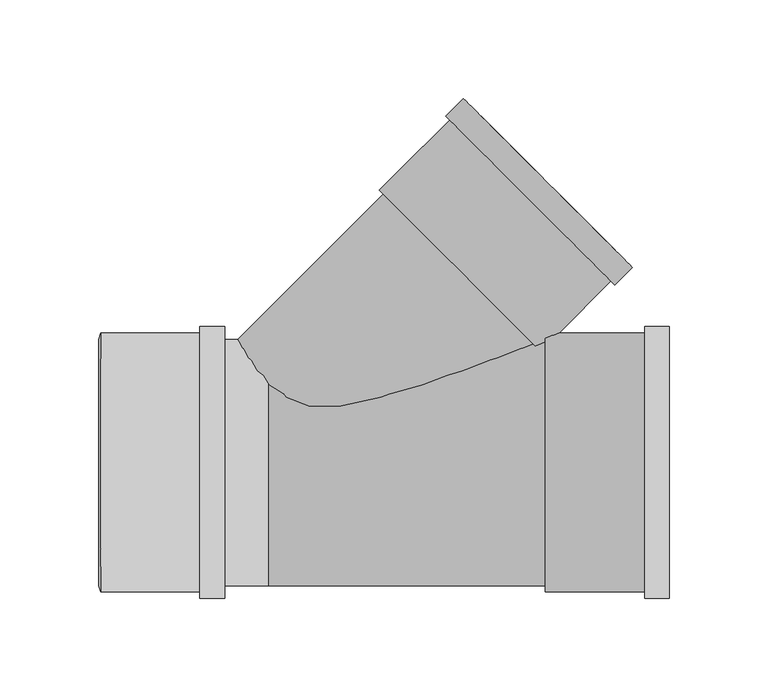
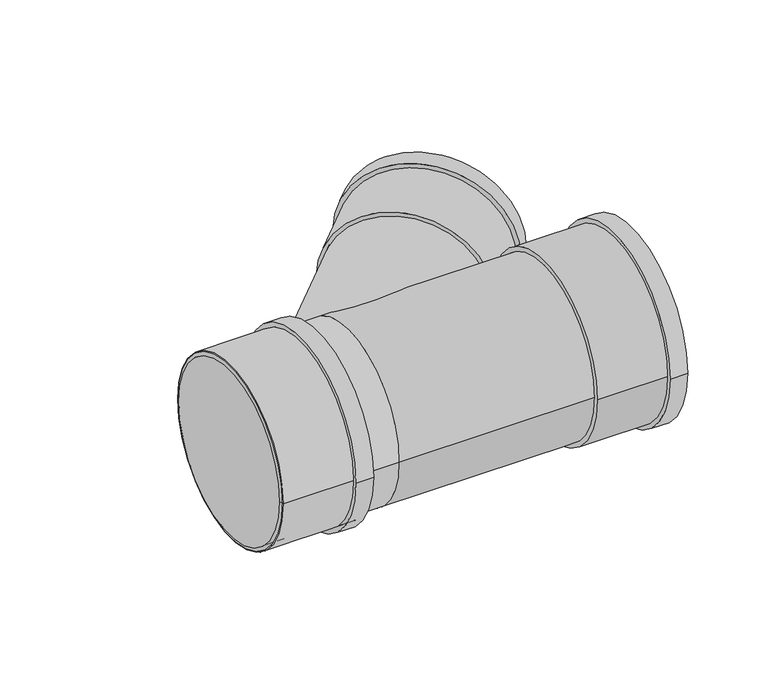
"""IFC4 building model written with IfcOpenShell, lengths in millimetres: pipe fitting geometry, Superdrain HTEA Branch : Superdrain HTEA Branch."""

from ifc_helpers import new_model, si_unit, point, frame, origin, origin_2d, place, context, project, spatial, polyline, circle_curve, trimmed, segment, composite_curve, outline, extrude, source, transform, mapped, element, save
from ifc_brep_helpers import plane_surface, cylinder_surface, revolved_surface, advanced_brep


def pipe_fitting_8b212066(model_context):
    return source(origin(), model_context, "Body", "SolidModel", [
        extrude(outline(composite_curve([segment(trimmed(circle_curve(origin_2d(), 65.625), [point((65.625, 0.0))], [point((-65.625, 0.0))], False, "CARTESIAN"), True, "CONTINUOUS"), segment(trimmed(circle_curve(origin_2d(), 65.625), [point((-65.625, 0.0))], [point((65.625, 0.0))], False, "CARTESIAN"), True, "CONTINUOUS")], self_intersect=False), holes=[composite_curve([segment(trimmed(circle_curve(origin_2d(), 62.5), [point((62.5, 0.0))], [point((-62.5, 0.0))], True, "CARTESIAN"), True, "CONTINUOUS"), segment(trimmed(circle_curve(origin_2d(), 62.5), [point((-62.5, 0.0))], [point((62.5, 0.0))], True, "CARTESIAN"), True, "CONTINUOUS")], self_intersect=False)]), frame((-85.0, 0.0, 0.0), z_axis=(1.0, 0.0, 0.0), x_axis=(0.0, 1.0, 0.0)), (0.0, 0.0, 1.0), 63.0),
        extrude(outline(composite_curve([segment(trimmed(circle_curve(origin_2d(), 68.90625), [point((68.90625, 0.0))], [point((-68.90625, 0.0))], False, "CARTESIAN"), True, "CONTINUOUS"), segment(trimmed(circle_curve(origin_2d(), 68.90625), [point((-68.90625, 0.0))], [point((68.90625, 0.0))], False, "CARTESIAN"), True, "CONTINUOUS")], self_intersect=False), holes=[composite_curve([segment(trimmed(circle_curve(origin_2d(), 62.5), [point((62.5, 0.0))], [point((-62.5, 0.0))], True, "CARTESIAN"), True, "CONTINUOUS"), segment(trimmed(circle_curve(origin_2d(), 62.5), [point((-62.5, 0.0))], [point((62.5, 0.0))], True, "CARTESIAN"), True, "CONTINUOUS")], self_intersect=False)]), frame((-34.6, 0.0, 0.0), z_axis=(1.0, 0.0, 0.0), x_axis=(0.0, 1.0, 0.0)), (0.0, 0.0, 1.0), 12.6),
        advanced_brep(
        [(-86.0, 62.5, 0.0), (-86.0, -62.5, 0.0), (-85.0, 65.625, 0.0), (-85.0, -65.625, 0.0)],
        [
            (0, 1, circle_curve(frame((-86.0, 0.0, 0.0), z_axis=(-1.0, 0.0, 0.0), x_axis=(0.0, 1.0, 0.0)), 62.5)),
            (1, 0, circle_curve(frame((-86.0, 0.0, 0.0), z_axis=(-1.0, 0.0, 0.0), x_axis=(0.0, -1.0, 0.0)), 62.5)),
            (2, 3, circle_curve(frame((-85.0, 0.0, 0.0), z_axis=(1.0, 0.0, 0.0), x_axis=(0.0, -1.0, 0.0)), 65.625)),
            (3, 2, circle_curve(frame((-85.0, 0.0, 0.0), z_axis=(1.0, 0.0, 0.0), x_axis=(0.0, 1.0, 0.0)), 65.625)),
            (3, 1),
            (0, 2),
        ],
        [
            plane_surface(frame((-86.0, 0.0, 0.0), z_axis=(-1.0, 0.0, 0.0), x_axis=(0.0, 0.0, -1.0))),
            plane_surface(frame((-85.0, 0.0, 0.0), z_axis=(1.0, 0.0, 0.0), x_axis=(0.0, 0.0, -1.0))),
            revolved_surface(polyline([(-86.0, 62.5, 0.0), (-85.0, 65.625, 0.0)]), (-106.0, 0.0, 0.0), (1.0, 0.0, 0.0)),
            revolved_surface(polyline([(-86.0, -62.5, 0.0), (-85.0, -65.625, 0.0)]), (-106.0, 0.0, 0.0), (1.0, 0.0, 0.0)),
        ],
        [
            (0, [[1, 2]]),
            (1, [[3, 4]]),
            (2, [[-4, 5, -1, 6]]),
            (3, [[-3, -6, -2, -5]]),
        ],
    ),
        advanced_brep(
        [(140.5, -65.625, 0.0), (140.5, 65.625, 0.0), (203.5, -65.625, 0.0), (203.5, 65.625, 0.0), (203.5, -62.5, 0.0), (203.5, 62.5, 0.0), (141.5, -62.5, 0.0), (141.5, 62.5, 0.0)],
        [
            (0, 1, circle_curve(frame((140.5, 0.0, 0.0), z_axis=(-1.0, 0.0, 0.0), x_axis=(0.0, 1.0, 0.0)), 65.625)),
            (1, 0, circle_curve(frame((140.5, 0.0, 0.0), z_axis=(-1.0, 0.0, 0.0), x_axis=(0.0, 1.0, 0.0)), 65.625)),
            (2, 3, circle_curve(frame((203.5, 0.0, 0.0), z_axis=(1.0, 0.0, 0.0), x_axis=(0.0, 1.0, 0.0)), 65.625)),
            (3, 2, circle_curve(frame((203.5, 0.0, 0.0), z_axis=(1.0, 0.0, 0.0), x_axis=(0.0, 1.0, 0.0)), 65.625)),
            (4, 5, circle_curve(frame((203.5, 0.0, 0.0), z_axis=(-1.0, 0.0, 0.0), x_axis=(0.0, 1.0, 0.0)), 62.5)),
            (5, 4, circle_curve(frame((203.5, 0.0, 0.0), z_axis=(-1.0, 0.0, 0.0), x_axis=(0.0, 1.0, 0.0)), 62.5)),
            (0, 2),
            (3, 1),
            (6, 7, circle_curve(frame((141.5, 0.0, 0.0), z_axis=(-1.0, 0.0, 0.0), x_axis=(0.0, 1.0, 0.0)), 62.5)),
            (7, 5),
            (4, 6),
            (7, 6, circle_curve(frame((141.5, 0.0, 0.0), z_axis=(-1.0, 0.0, 0.0), x_axis=(0.0, 1.0, 0.0)), 62.5)),
        ],
        [
            plane_surface(frame((140.5, 0.0, 0.0), z_axis=(-1.0, 0.0, 0.0), x_axis=(0.0, 0.0, 1.0))),
            plane_surface(frame((203.5, 0.0, 0.0), z_axis=(1.0, 0.0, 0.0), x_axis=(0.0, 0.0, 1.0))),
            cylinder_surface(frame((140.5, 0.0, 0.0), z_axis=(-1.0, 0.0, 0.0), x_axis=(0.0, 1.0, 0.0)), 65.625),
            revolved_surface(polyline([(141.5, 62.5, 0.0), (203.5, 62.5, 0.0)]), (141.5, 0.0, 0.0), (-1.0, 0.0, 0.0)),
            plane_surface(frame((141.5, 0.0, 0.0), z_axis=(1.0, 0.0, 0.0), x_axis=(0.0, 0.0, 1.0))),
        ],
        [
            (0, [[1, 2]]),
            (1, [[3, 4], [5, 6]]),
            (2, [[-1, 7, -4, 8]]),
            (2, [[-2, -8, -3, -7]]),
            (3, [[9, 10, -5, 11]]),
            (3, [[12, -11, -6, -10]]),
            (4, [[-12, -9]]),
        ],
    ),
        extrude(outline(composite_curve([segment(trimmed(circle_curve(origin_2d(), 68.90625), [point((68.90625, 0.0))], [point((-68.90625, 0.0))], False, "CARTESIAN"), True, "CONTINUOUS"), segment(trimmed(circle_curve(origin_2d(), 68.90625), [point((-68.90625, 0.0))], [point((68.90625, 0.0))], False, "CARTESIAN"), True, "CONTINUOUS")], self_intersect=False), holes=[composite_curve([segment(trimmed(circle_curve(origin_2d(), 62.5), [point((62.5, 0.0))], [point((-62.5, 0.0))], True, "CARTESIAN"), True, "CONTINUOUS"), segment(trimmed(circle_curve(origin_2d(), 62.5), [point((-62.5, 0.0))], [point((62.5, 0.0))], True, "CARTESIAN"), True, "CONTINUOUS")], self_intersect=False)]), frame((190.9, 0.0, 0.0), z_axis=(1.0, 0.0, 0.0), x_axis=(0.0, 1.0, 0.0)), (0.0, 0.0, 1.0), 12.6),
        extrude(outline(composite_curve([segment(trimmed(circle_curve(origin_2d(), 55.0), [point((0.0, 55.0))], [point((0.0, -55.0))], False, "CARTESIAN"), True, "CONTINUOUS"), segment(trimmed(circle_curve(origin_2d(), 55.0), [point((0.0, -55.0))], [point((0.0, 55.0))], False, "CARTESIAN"), True, "CONTINUOUS")], self_intersect=False)), frame((0.0, 0.0, 0.0), z_axis=(0.7071067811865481, 0.7071067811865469, 0.0), x_axis=(0.0, 0.0, 1.0)), (0.0, 0.0, 1.0), 137.6),
        extrude(outline(composite_curve([segment(trimmed(circle_curve(origin_2d(), 62.5), [point((62.5, 0.0))], [point((-62.5, 0.0))], False, "CARTESIAN"), True, "CONTINUOUS"), segment(trimmed(circle_curve(origin_2d(), 62.5), [point((-62.5, 0.0))], [point((62.5, 0.0))], False, "CARTESIAN"), True, "CONTINUOUS")], self_intersect=False)), frame((-85.0, 0.0, 0.0), z_axis=(1.0, 0.0, 0.0), x_axis=(0.0, 1.0, 0.0)), (0.0, 0.0, 1.0), 85.0),
        extrude(outline(composite_curve([segment(trimmed(circle_curve(origin_2d(), 62.5), [point((-62.5, 0.0))], [point((62.5, 0.0))], False, "CARTESIAN"), True, "CONTINUOUS"), segment(trimmed(circle_curve(origin_2d(), 62.5), [point((62.5, 0.0))], [point((-62.5, 0.0))], False, "CARTESIAN"), True, "CONTINUOUS")], self_intersect=False)), frame((0.0, 0.0, 0.0), z_axis=(1.0, 0.0, 0.0), x_axis=(0.0, 1.0, 0.0)), (0.0, 0.0, 1.0), 140.5),
        extrude(outline(composite_curve([segment(trimmed(circle_curve(origin_2d(), 60.6375), [point((0.0, 60.6375))], [point((0.0, -60.6375))], False, "CARTESIAN"), True, "CONTINUOUS"), segment(trimmed(circle_curve(origin_2d(), 60.6375), [point((0.0, -60.6375))], [point((0.0, 60.6375))], False, "CARTESIAN"), True, "CONTINUOUS")], self_intersect=False), holes=[composite_curve([segment(trimmed(circle_curve(origin_2d(), 55.0), [point((0.0, 55.0))], [point((0.0, -55.0))], True, "CARTESIAN"), True, "CONTINUOUS"), segment(trimmed(circle_curve(origin_2d(), 55.0), [point((0.0, -55.0))], [point((0.0, 55.0))], True, "CARTESIAN"), True, "CONTINUOUS")], self_intersect=False)]), frame((132.9360749, 132.9360749, 0.0), z_axis=(0.7071067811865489, 0.7071067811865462, 0.0), x_axis=(0.0, 0.0, 1.0)), (0.0, 0.0, 1.0), 12.6),
        extrude(outline(composite_curve([segment(trimmed(circle_curve(origin_2d(), 57.75), [point((0.0, 57.75))], [point((0.0, -57.75))], False, "CARTESIAN"), True, "CONTINUOUS"), segment(trimmed(circle_curve(origin_2d(), 57.75), [point((0.0, -57.75))], [point((0.0, 57.75))], False, "CARTESIAN"), True, "CONTINUOUS")], self_intersect=False), holes=[composite_curve([segment(trimmed(circle_curve(origin_2d(), 55.0), [point((0.0, 55.0))], [point((0.0, -55.0))], True, "CARTESIAN"), True, "CONTINUOUS"), segment(trimmed(circle_curve(origin_2d(), 55.0), [point((0.0, -55.0))], [point((0.0, 55.0))], True, "CARTESIAN"), True, "CONTINUOUS")], self_intersect=False)]), frame((97.2978931, 97.2978931, 0.0), z_axis=(0.7071067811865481, 0.707106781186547, 0.0), x_axis=(0.0, 0.0, 1.0)), (0.0, 0.0, 1.0), 63.0),
    ])


if __name__ == "__main__":
    model = new_model("IFC4")
    model_context = context("Model", 3, world=origin())
    ifc_project = project(units=[si_unit("LENGTHUNIT", "METRE", prefix="MILLI")], contexts=[model_context])
    site = spatial("IfcSite", under=ifc_project)
    building = spatial("IfcBuilding", under=site)
    placement = place(None, origin())
    pipe_fitting_shape = pipe_fitting_8b212066(model_context)
    element("IfcPipeFitting", 1, ObjectType="Superdrain HTEA Branch : Superdrain HTEA Branch", at=placement, inside=building, context=model_context, shape_type="MappedRepresentation", body=[
        mapped(pipe_fitting_shape, transform((0.0, 0.0, 0.0), x_axis=(1.0, 0.0, 0.0), y_axis=(0.0, 1.0, 0.0), z_axis=(0.0, 0.0, 1.0))),
    ])
    save(model, "model.ifc")
